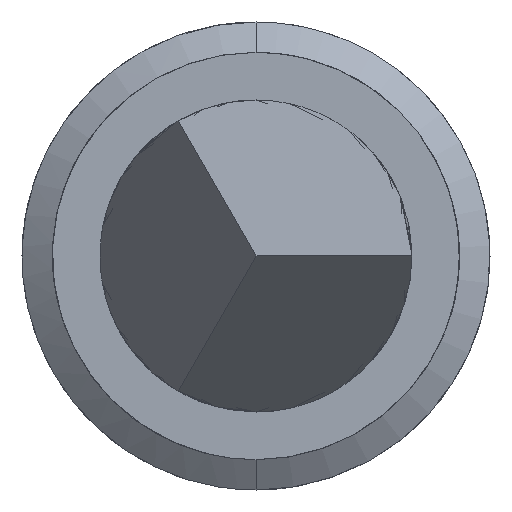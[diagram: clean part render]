
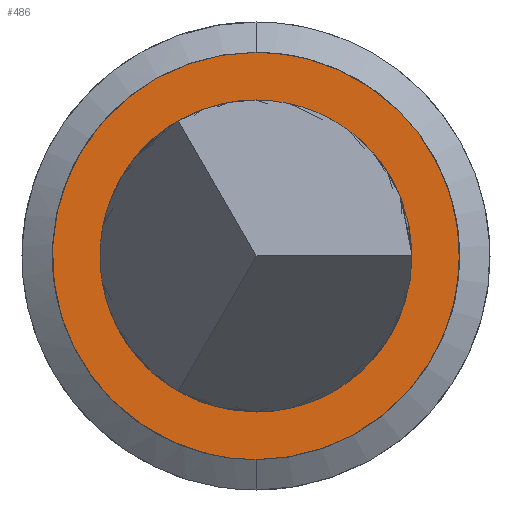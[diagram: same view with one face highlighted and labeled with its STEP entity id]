
A CAD part, left-side view. The second image highlights one B-rep face of the part: STEP entity #486.
In plain terms, the highlighted free-form (B-spline) face has degree [1, 1] with [2, 2] control points.
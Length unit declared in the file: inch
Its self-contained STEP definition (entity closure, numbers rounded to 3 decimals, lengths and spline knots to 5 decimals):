
#20 = B_SPLINE_CURVE_WITH_KNOTS ( 'NONE', 3,
 ( #682, #761, #175, #433, #573, #554, #679, #373, #695, #629 ),
 .UNSPECIFIED., .F., .F.,
 ( 4, 2, 2, 2, 4 ),
 ( 0., 0.7854, 1.5708, 2.35619, 3.14159 ),
 .UNSPECIFIED. ) ;
#46 = CARTESIAN_POINT ( 'NONE',  ( 0.33, -0.00477, 0.018 ) ) ;
#48 = CARTESIAN_POINT ( 'NONE',  ( 0.33, 0.00477, -0.018 ) ) ;
#53 = CARTESIAN_POINT ( 'NONE',  ( 0.33, 0.00935, 0.0161 ) ) ;
#55 = CARTESIAN_POINT ( 'NONE',  ( 0.33, 0., 0.018 ) ) ;
#61 = CARTESIAN_POINT ( 'NONE',  ( 0.33, 0., -0.018 ) ) ;
#72 = CARTESIAN_POINT ( 'NONE',  ( 0.33, 0., 0.0235 ) ) ;
#74 = ORIENTED_EDGE ( 'NONE', *, *, #416, .T. ) ;
#75 = EDGE_CURVE ( 'NONE', #278, #89, #230, .T. ) ;
#86 = CARTESIAN_POINT ( 'NONE',  ( 0.33, -0.01221, 0.02102 ) ) ;
#89 = VERTEX_POINT ( 'NONE', #118 ) ;
#111 = CARTESIAN_POINT ( 'NONE',  ( 0.33, -0.02102, -0.01221 ) ) ;
#115 = CARTESIAN_POINT ( 'NONE',  ( 0.33, 0.018, 0.00477 ) ) ;
#118 = CARTESIAN_POINT ( 'NONE',  ( 0.33, 0., -0.018 ) ) ;
#146 = CARTESIAN_POINT ( 'NONE',  ( 0.33, -0.02378, -0.02378 ) ) ;
#155 = CARTESIAN_POINT ( 'NONE',  ( 0.33, -0.02378, 0.02378 ) ) ;
#169 = CARTESIAN_POINT ( 'NONE',  ( 0.33, 0.00935, -0.0161 ) ) ;
#170 = CARTESIAN_POINT ( 'NONE',  ( 0.33, -0.00623, -0.0235 ) ) ;
#175 = CARTESIAN_POINT ( 'NONE',  ( 0.33, 0.01221, 0.02102 ) ) ;
#178 = CARTESIAN_POINT ( 'NONE',  ( 0.33, -0.018, 0.00477 ) ) ;
#209 = VERTEX_POINT ( 'NONE', #72 ) ;
#215 = CARTESIAN_POINT ( 'NONE',  ( 0.33, 0., 0.0235 ) ) ;
#217 = ORIENTED_EDGE ( 'NONE', *, *, #815, .T. ) ;
#220 = B_SPLINE_CURVE_WITH_KNOTS ( 'NONE', 3,
 ( #61, #48, #169, #378, #306, #115, #438, #53, #691, #497 ),
 .UNSPECIFIED., .F., .F.,
 ( 4, 2, 2, 2, 4 ),
 ( 0., 0.7854, 1.5708, 2.35619, 3.14159 ),
 .UNSPECIFIED. ) ;
#222 = FACE_OUTER_BOUND ( 'NONE', #410, .T. ) ;
#230 = B_SPLINE_CURVE_WITH_KNOTS ( 'NONE', 3,
 ( #818, #46, #304, #315, #178, #431, #755, #688, #371, #825 ),
 .UNSPECIFIED., .F., .F.,
 ( 4, 2, 2, 2, 4 ),
 ( 0., 0.7854, 1.5708, 2.35619, 3.14159 ),
 .UNSPECIFIED. ) ;
#278 = VERTEX_POINT ( 'NONE', #55 ) ;
#295 = ORIENTED_EDGE ( 'NONE', *, *, #75, .T. ) ;
#298 = B_SPLINE_SURFACE_WITH_KNOTS ( 'NONE', 1, 1, ( 
 ( #146, #733 ),
 ( #155, #415 ) ),
 .UNSPECIFIED., .F., .F., .F.,
 ( 2, 2 ),
 ( 2, 2 ),
 ( 0., 1. ),
 ( 0., 1. ),
 .UNSPECIFIED. ) ;
#302 = CARTESIAN_POINT ( 'NONE',  ( 0.33, 0., -0.0235 ) ) ;
#304 = CARTESIAN_POINT ( 'NONE',  ( 0.33, -0.00935, 0.0161 ) ) ;
#306 = CARTESIAN_POINT ( 'NONE',  ( 0.33, 0.018, -0.00477 ) ) ;
#315 = CARTESIAN_POINT ( 'NONE',  ( 0.33, -0.0161, 0.00935 ) ) ;
#327 = CARTESIAN_POINT ( 'NONE',  ( 0.33, -0.0235, 0.00623 ) ) ;
#345 = FACE_BOUND ( 'NONE', #616, .T. ) ;
#362 = CARTESIAN_POINT ( 'NONE',  ( 0.33, 0., -0.0235 ) ) ;
#371 = CARTESIAN_POINT ( 'NONE',  ( 0.33, -0.00477, -0.018 ) ) ;
#373 = CARTESIAN_POINT ( 'NONE',  ( 0.33, 0.01221, -0.02102 ) ) ;
#378 = CARTESIAN_POINT ( 'NONE',  ( 0.33, 0.0161, -0.00935 ) ) ;
#395 = EDGE_CURVE ( 'NONE', #89, #278, #220, .T. ) ;
#400 = CARTESIAN_POINT ( 'NONE',  ( 0.33, -0.00623, 0.0235 ) ) ;
#410 = EDGE_LOOP ( 'NONE', ( #74, #217 ) ) ;
#415 = CARTESIAN_POINT ( 'NONE',  ( 0.33, 0.02378, 0.02378 ) ) ;
#416 = EDGE_CURVE ( 'NONE', #209, #779, #20, .T. ) ;
#428 = CARTESIAN_POINT ( 'NONE',  ( 0.33, -0.01221, -0.02102 ) ) ;
#431 = CARTESIAN_POINT ( 'NONE',  ( 0.33, -0.018, -0.00477 ) ) ;
#433 = CARTESIAN_POINT ( 'NONE',  ( 0.33, 0.02102, 0.01221 ) ) ;
#438 = CARTESIAN_POINT ( 'NONE',  ( 0.33, 0.0161, 0.00935 ) ) ;
#468 = CARTESIAN_POINT ( 'NONE',  ( 0.33, -0.02102, 0.01221 ) ) ;
#486 = ADVANCED_FACE ( 'NONE', ( #345, #222 ), #298, .T. ) ;
#497 = CARTESIAN_POINT ( 'NONE',  ( 0.33, 0., 0.018 ) ) ;
#506 = B_SPLINE_CURVE_WITH_KNOTS ( 'NONE', 3,
 ( #362, #170, #428, #111, #712, #327, #468, #86, #400, #215 ),
 .UNSPECIFIED., .F., .F.,
 ( 4, 2, 2, 2, 4 ),
 ( 0., 0.7854, 1.5708, 2.35619, 3.14159 ),
 .UNSPECIFIED. ) ;
#554 = CARTESIAN_POINT ( 'NONE',  ( 0.33, 0.0235, -0.00623 ) ) ;
#573 = CARTESIAN_POINT ( 'NONE',  ( 0.33, 0.0235, 0.00623 ) ) ;
#616 = EDGE_LOOP ( 'NONE', ( #730, #295 ) ) ;
#629 = CARTESIAN_POINT ( 'NONE',  ( 0.33, 0., -0.0235 ) ) ;
#679 = CARTESIAN_POINT ( 'NONE',  ( 0.33, 0.02102, -0.01221 ) ) ;
#682 = CARTESIAN_POINT ( 'NONE',  ( 0.33, 0., 0.0235 ) ) ;
#688 = CARTESIAN_POINT ( 'NONE',  ( 0.33, -0.00935, -0.0161 ) ) ;
#691 = CARTESIAN_POINT ( 'NONE',  ( 0.33, 0.00477, 0.018 ) ) ;
#695 = CARTESIAN_POINT ( 'NONE',  ( 0.33, 0.00623, -0.0235 ) ) ;
#712 = CARTESIAN_POINT ( 'NONE',  ( 0.33, -0.0235, -0.00623 ) ) ;
#730 = ORIENTED_EDGE ( 'NONE', *, *, #395, .T. ) ;
#733 = CARTESIAN_POINT ( 'NONE',  ( 0.33, 0.02378, -0.02378 ) ) ;
#755 = CARTESIAN_POINT ( 'NONE',  ( 0.33, -0.0161, -0.00935 ) ) ;
#761 = CARTESIAN_POINT ( 'NONE',  ( 0.33, 0.00623, 0.0235 ) ) ;
#779 = VERTEX_POINT ( 'NONE', #302 ) ;
#815 = EDGE_CURVE ( 'NONE', #779, #209, #506, .T. ) ;
#818 = CARTESIAN_POINT ( 'NONE',  ( 0.33, 0., 0.018 ) ) ;
#825 = CARTESIAN_POINT ( 'NONE',  ( 0.33, 0., -0.018 ) ) ;
